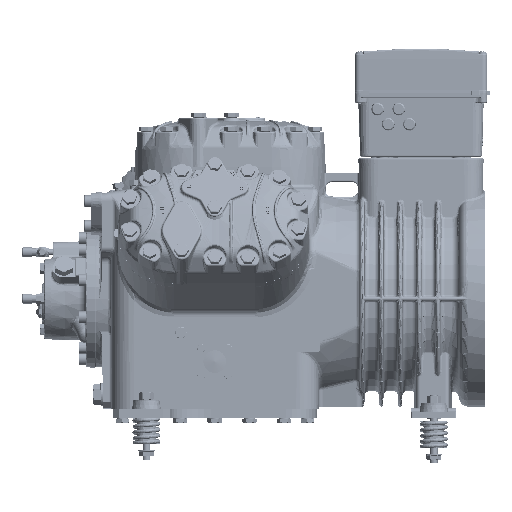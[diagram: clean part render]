
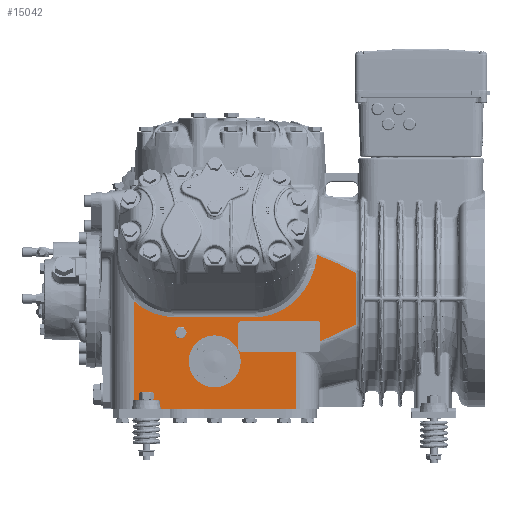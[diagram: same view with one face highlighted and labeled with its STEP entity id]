
A CAD part, front view. The second image highlights one B-rep face of the part: STEP entity #15042.
In plain terms, the highlighted planar face has unit normal (0, -1, 0).
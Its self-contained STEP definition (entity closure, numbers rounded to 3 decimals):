
#10639=ELLIPSE('',#154086,95.84,83.);
#10640=ELLIPSE('',#154087,99.304,86.);
#11367=FACE_BOUND('',#35393,.T.);
#11368=FACE_BOUND('',#35394,.T.);
#11369=FACE_BOUND('',#35395,.T.);
#15042=ADVANCED_FACE('',(#11367,#11368,#11369),#23170,.T.);
#23170=PLANE('',#154090);
#35393=EDGE_LOOP('',(#71813,#71814,#71815,#71816,#71817,#71818,#71819,#71820,
#71821,#71822,#71823,#71824,#71825,#71826,#71827,#71828,#71829));
#35394=EDGE_LOOP('',(#71830));
#35395=EDGE_LOOP('',(#71831));
#45492=CIRCLE('',#154083,3.);
#45493=CIRCLE('',#154084,3.);
#45494=CIRCLE('',#154085,3.);
#45495=CIRCLE('',#154088,6.858);
#45496=CIRCLE('',#154089,34.5);
#51390=LINE('',#221904,#58606);
#51419=LINE('',#222075,#58635);
#51420=LINE('',#222077,#58636);
#51421=LINE('',#222081,#58637);
#51422=LINE('',#222085,#58638);
#51423=LINE('',#222089,#58639);
#51424=LINE('',#222112,#58640);
#51425=LINE('',#222116,#58641);
#51426=LINE('',#222118,#58642);
#58606=VECTOR('',#169473,1.);
#58635=VECTOR('',#169556,1.);
#58636=VECTOR('',#169559,1.);
#58637=VECTOR('',#169562,1.);
#58638=VECTOR('',#169565,1.);
#58639=VECTOR('',#169568,1.);
#58640=VECTOR('',#169571,1.);
#58641=VECTOR('',#169574,1.);
#58642=VECTOR('',#169575,1.);
#71813=ORIENTED_EDGE('',*,*,#125765,.T.);
#71814=ORIENTED_EDGE('',*,*,#125766,.F.);
#71815=ORIENTED_EDGE('',*,*,#125767,.F.);
#71816=ORIENTED_EDGE('',*,*,#125768,.F.);
#71817=ORIENTED_EDGE('',*,*,#125769,.F.);
#71818=ORIENTED_EDGE('',*,*,#125770,.F.);
#71819=ORIENTED_EDGE('',*,*,#125771,.F.);
#71820=ORIENTED_EDGE('',*,*,#125772,.F.);
#71821=ORIENTED_EDGE('',*,*,#125773,.T.);
#71822=ORIENTED_EDGE('',*,*,#125774,.T.);
#71823=ORIENTED_EDGE('',*,*,#125775,.T.);
#71824=ORIENTED_EDGE('',*,*,#125776,.T.);
#71825=ORIENTED_EDGE('',*,*,#125777,.T.);
#71826=ORIENTED_EDGE('',*,*,#125778,.T.);
#71827=ORIENTED_EDGE('',*,*,#125779,.F.);
#71828=ORIENTED_EDGE('',*,*,#125780,.T.);
#71829=ORIENTED_EDGE('',*,*,#125709,.T.);
#71830=ORIENTED_EDGE('',*,*,#125781,.F.);
#71831=ORIENTED_EDGE('',*,*,#125782,.T.);
#110679=VERTEX_POINT('',#221905);
#110680=VERTEX_POINT('',#221906);
#110724=VERTEX_POINT('',#222074);
#110725=VERTEX_POINT('',#222078);
#110726=VERTEX_POINT('',#222080);
#110727=VERTEX_POINT('',#222082);
#110728=VERTEX_POINT('',#222084);
#110729=VERTEX_POINT('',#222086);
#110730=VERTEX_POINT('',#222088);
#110731=VERTEX_POINT('',#222090);
#110732=VERTEX_POINT('',#222097);
#110733=VERTEX_POINT('',#222102);
#110734=VERTEX_POINT('',#222109);
#110735=VERTEX_POINT('',#222111);
#110736=VERTEX_POINT('',#222113);
#110737=VERTEX_POINT('',#222115);
#110738=VERTEX_POINT('',#222117);
#110739=VERTEX_POINT('',#222120);
#110740=VERTEX_POINT('',#222122);
#125709=EDGE_CURVE('',#110679,#110680,#51390,.T.);
#125765=EDGE_CURVE('',#110680,#110724,#51419,.T.);
#125766=EDGE_CURVE('',#110725,#110724,#51420,.T.);
#125767=EDGE_CURVE('',#110726,#110725,#45492,.T.);
#125768=EDGE_CURVE('',#110727,#110726,#51421,.T.);
#125769=EDGE_CURVE('',#110728,#110727,#45493,.T.);
#125770=EDGE_CURVE('',#110729,#110728,#51422,.T.);
#125771=EDGE_CURVE('',#110730,#110729,#45494,.T.);
#125772=EDGE_CURVE('',#110731,#110730,#51423,.T.);
#125773=EDGE_CURVE('',#110731,#110732,#145750,.T.);
#125774=EDGE_CURVE('',#110732,#110733,#145751,.T.);
#125775=EDGE_CURVE('',#110733,#110734,#145752,.T.);
#125776=EDGE_CURVE('',#110734,#110735,#10639,.T.);
#125777=EDGE_CURVE('',#110735,#110736,#51424,.T.);
#125778=EDGE_CURVE('',#110736,#110737,#10640,.T.);
#125779=EDGE_CURVE('',#110738,#110737,#51425,.T.);
#125780=EDGE_CURVE('',#110738,#110679,#51426,.T.);
#125781=EDGE_CURVE('',#110739,#110739,#45495,.T.);
#125782=EDGE_CURVE('',#110740,#110740,#45496,.T.);
#145750=B_SPLINE_CURVE_WITH_KNOTS('',3,(#222091,#222092,#222093,#222094,
#222095,#222096),.UNSPECIFIED.,.F.,.F.,(4,2,4),(0.,0.5,1.),
 .UNSPECIFIED.);
#145751=B_SPLINE_CURVE_WITH_KNOTS('',3,(#222098,#222099,#222100,#222101),
 .UNSPECIFIED.,.F.,.F.,(4,4),(0.,1.),.UNSPECIFIED.);
#145752=B_SPLINE_CURVE_WITH_KNOTS('',3,(#222103,#222104,#222105,#222106,
#222107,#222108),.UNSPECIFIED.,.F.,.F.,(4,2,4),(0.,0.5,1.),
 .UNSPECIFIED.);
#154083=AXIS2_PLACEMENT_3D('',#222079,#169560,#169561);
#154084=AXIS2_PLACEMENT_3D('',#222083,#169563,#169564);
#154085=AXIS2_PLACEMENT_3D('',#222087,#169566,#169567);
#154086=AXIS2_PLACEMENT_3D('',#222110,#169569,#169570);
#154087=AXIS2_PLACEMENT_3D('',#222114,#169572,#169573);
#154088=AXIS2_PLACEMENT_3D('',#222119,#169576,#169577);
#154089=AXIS2_PLACEMENT_3D('',#222121,#169578,#169579);
#154090=AXIS2_PLACEMENT_3D('',#222123,#169580,#169581);
#169473=DIRECTION('',(1.,0.,0.));
#169556=DIRECTION('',(0.,0.,1.));
#169559=DIRECTION('',(1.,0.,0.));
#169560=DIRECTION('',(0.,-1.,0.));
#169561=DIRECTION('',(0.,0.,-1.));
#169562=DIRECTION('',(0.,0.,-1.));
#169563=DIRECTION('',(0.,-1.,0.));
#169564=DIRECTION('',(0.,0.,-1.));
#169565=DIRECTION('',(-1.,0.,0.));
#169566=DIRECTION('',(0.,-1.,0.));
#169567=DIRECTION('',(0.,0.,-1.));
#169568=DIRECTION('',(0.,0.,1.));
#169569=DIRECTION('',(0.,1.,0.));
#169570=DIRECTION('',(0.,0.,1.));
#169571=DIRECTION('',(-1.,0.,0.));
#169572=DIRECTION('',(0.,1.,0.));
#169573=DIRECTION('',(0.,0.,1.));
#169574=DIRECTION('',(0.,0.,1.));
#169575=DIRECTION('',(1.,0.,0.));
#169576=DIRECTION('',(0.,-1.,0.));
#169577=DIRECTION('',(0.,0.,-1.));
#169578=DIRECTION('',(0.,1.,0.));
#169579=DIRECTION('',(0.,0.,1.));
#169580=DIRECTION('',(0.,-1.,0.));
#169581=DIRECTION('',(0.,0.,-1.));
#221904=CARTESIAN_POINT('',(-230.5,-125.,-146.));
#221905=CARTESIAN_POINT('',(-241.25,-125.,-146.));
#221906=CARTESIAN_POINT('',(-123.,-125.,-146.));
#222074=CARTESIAN_POINT('',(-123.,-125.,-70.));
#222075=CARTESIAN_POINT('',(-123.,-125.,-146.));
#222077=CARTESIAN_POINT('',(-230.5,-125.,-70.));
#222078=CARTESIAN_POINT('',(-196.5,-125.,-70.));
#222079=CARTESIAN_POINT('',(-196.5,-125.,-67.));
#222080=CARTESIAN_POINT('',(-199.5,-125.,-67.));
#222081=CARTESIAN_POINT('',(-199.5,-125.,-72.));
#222082=CARTESIAN_POINT('',(-199.5,-125.,-33.));
#222083=CARTESIAN_POINT('',(-196.5,-125.,-33.));
#222084=CARTESIAN_POINT('',(-196.5,-125.,-30.));
#222085=CARTESIAN_POINT('',(-230.5,-125.,-30.));
#222086=CARTESIAN_POINT('',(-94.,-125.,-30.));
#222087=CARTESIAN_POINT('',(-94.,-125.,-33.));
#222088=CARTESIAN_POINT('',(-91.,-125.,-33.));
#222089=CARTESIAN_POINT('',(-91.,-125.,-72.));
#222090=CARTESIAN_POINT('',(-91.,-125.,-56.551));
#222091=CARTESIAN_POINT('',(-91.,-125.,-56.551));
#222092=CARTESIAN_POINT('',(-82.894,-125.,-53.357));
#222093=CARTESIAN_POINT('',(-74.849,-125.,-49.979));
#222094=CARTESIAN_POINT('',(-59.066,-125.,-42.64));
#222095=CARTESIAN_POINT('',(-51.311,-125.,-38.695));
#222096=CARTESIAN_POINT('',(-43.855,-125.,-34.151));
#222097=CARTESIAN_POINT('',(-43.855,-125.,-34.151));
#222098=CARTESIAN_POINT('',(-43.855,-125.,-34.151));
#222099=CARTESIAN_POINT('',(-44.056,-125.,-11.384));
#222100=CARTESIAN_POINT('',(-44.056,-125.,11.384));
#222101=CARTESIAN_POINT('',(-43.855,-125.,34.151));
#222102=CARTESIAN_POINT('',(-43.855,-125.,34.151));
#222103=CARTESIAN_POINT('',(-43.855,-125.,34.151));
#222104=CARTESIAN_POINT('',(-51.906,-125.,39.057));
#222105=CARTESIAN_POINT('',(-60.309,-125.,43.274));
#222106=CARTESIAN_POINT('',(-77.374,-125.,51.084));
#222107=CARTESIAN_POINT('',(-86.06,-125.,54.66));
#222108=CARTESIAN_POINT('',(-94.833,-125.,58.046));
#222109=CARTESIAN_POINT('',(-94.833,-125.,58.046));
#222110=CARTESIAN_POINT('',(-177.,-125.,71.591));
#222111=CARTESIAN_POINT('',(-177.,-125.,-24.249));
#222112=CARTESIAN_POINT('',(-285.,-125.,-24.249));
#222113=CARTESIAN_POINT('',(-285.,-125.,-24.249));
#222114=CARTESIAN_POINT('',(-285.,-125.,75.056));
#222115=CARTESIAN_POINT('',(-338.,-125.,-3.149));
#222116=CARTESIAN_POINT('',(-338.,-125.,-146.));
#222117=CARTESIAN_POINT('',(-338.,-125.,-146.));
#222118=CARTESIAN_POINT('',(-230.5,-125.,-146.));
#222119=CARTESIAN_POINT('',(-276.,-125.,-45.));
#222120=CARTESIAN_POINT('',(-276.,-125.,-51.858));
#222121=CARTESIAN_POINT('',(-231.,-125.,-83.));
#222122=CARTESIAN_POINT('',(-231.,-125.,-48.5));
#222123=CARTESIAN_POINT('',(-230.5,-125.,-146.));
